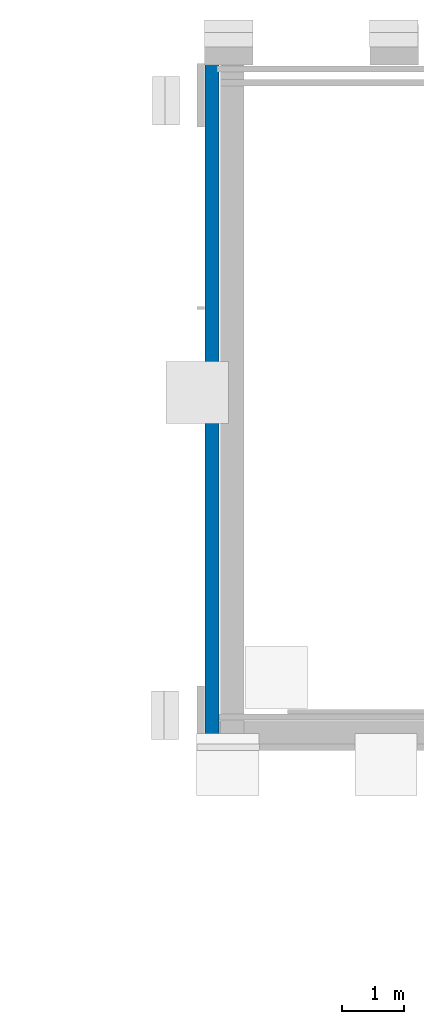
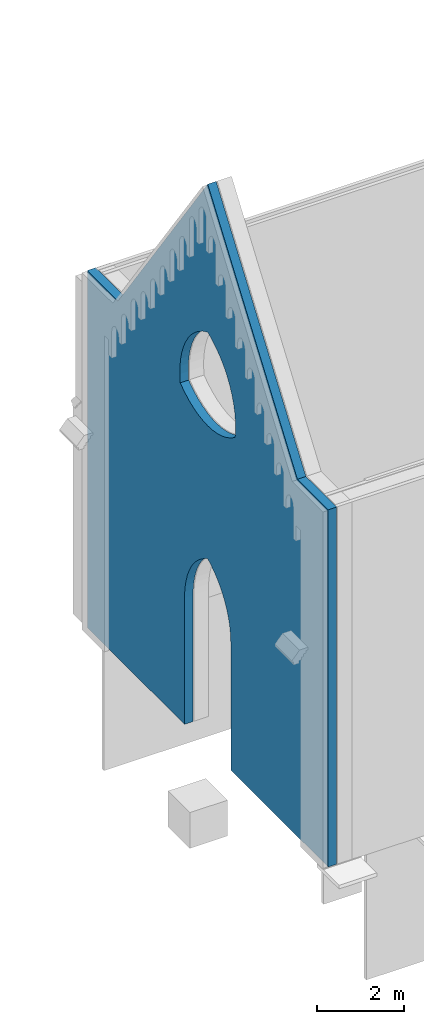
# Not in any storey, part 3 of 5: 1 wall.
"""IFC4 model written with IfcOpenShell, lengths in metres."""

from ifc_helpers import new_model, entity, si_unit, converted_unit, frame, origin_with_axes, origin_2d_with_axis, place, context, subcontext, project, polygons, element, save


model = new_model("IFC4")

# Units and contexts
model_context = context("Model", 3, precision=1e-05, world=origin_with_axes())
plan_context = context("Plan", 2, precision=1e-05, world=origin_2d_with_axis())
body_context = subcontext(model_context, "Body", "Model", "MODEL_VIEW")
ifc_project = project(units=[si_unit("LENGTHUNIT", "METRE"), converted_unit("PLANEANGLEUNIT", "degree", entity("IfcReal", 0.0174532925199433), si_unit("PLANEANGLEUNIT", "RADIAN"), dimensions=[0, 0, 0, 0, 0, 0, 0]), si_unit("AREAUNIT", "SQUARE_METRE"), si_unit("VOLUMEUNIT", "CUBIC_METRE")], contexts=[model_context, plan_context])

# Wall
wall_placement = place(None, frame((0.125, 0.0, 0.0), z_axis=(0.999999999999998, 4.37113882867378e-08, -4.37113882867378e-08), x_axis=(-4.37113882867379e-08, 0.999999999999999, 0.0)))
element("IfcWall", 1, at=wall_placement, Name="wall_north_face_2", PredefinedType="SOLIDWALL", context=body_context, shape_type="Tessellation", body=[
    polygons([(6.58132362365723, 1.9999741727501e-15, 0.0), (6.95278453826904, 1.83330985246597e-15, 0.0), (7.32424545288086, 1.66664521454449e-15, 0.0), (7.69570636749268, 1.49998068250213e-15, 0.0), (8.06716728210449, 1.33331615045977e-15, 0.0), (8.43862819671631, 1.16665161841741e-15, 0.0), (8.81009006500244, 9.9998698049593e-16, 0.0), (9.18155097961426, 8.33322448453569e-16, 0.0), (9.55301189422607, 6.66657916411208e-16, 0.0), (9.92447280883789, 4.99993331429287e-16, 0.0), (10.2959337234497, 3.33328825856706e-16, 0.0), (10.6673946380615, 1.66664280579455e-16, 0.0), (11.038857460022, 0.0, 0.0), (11.038857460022, 0.832405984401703, 0.0), (11.038857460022, 1.66481196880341, 0.0), (11.038857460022, 2.49721789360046, 0.0), (11.038857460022, 3.32962393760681, 0.0), (11.038857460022, 4.16202974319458, 0.0), (11.038857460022, 4.99443578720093, 0.0), (11.038857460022, 5.82684135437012, 0.0), (11.038857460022, 6.65924739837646, 0.0), (11.038857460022, 7.49165296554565, 0.0), (11.038857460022, 8.32405853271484, 0.0), (11.038857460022, 9.15646553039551, 0.0), (11.038857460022, 9.98887157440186, 0.0), (10.9215612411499, 9.98887157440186, 0.0), (10.8042650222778, 9.98887157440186, 0.0), (10.6869688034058, 9.98887157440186, 0.0), (10.5696725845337, 9.98887157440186, 0.0), (10.4523763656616, 9.98887157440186, 0.0), (10.3350801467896, 9.98887157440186, 0.0), (10.2177839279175, 9.98887157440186, 0.0), (10.1004867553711, 9.98887157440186, 0.0), (9.98319053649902, 9.98887157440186, 0.0), (9.86589431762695, 9.98887157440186, 0.0), (9.74859809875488, 9.98887157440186, 0.0), (9.63130187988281, 9.98887157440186, 0.0), (9.28879451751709, 10.468879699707, 0.0), (8.94628715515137, 10.9488887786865, 0.0), (8.60377979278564, 11.4288969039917, 0.0), (8.26127243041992, 11.9089050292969, 0.0), (7.9187650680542, 12.3889141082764, 0.0), (7.57625770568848, 12.8689222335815, 0.0), (7.23375082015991, 13.3489303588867, 0.0), (6.89124345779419, 13.8289394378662, 0.0), (6.54873609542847, 14.3089475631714, 0.0), (6.20622873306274, 14.7889556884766, 0.0), (5.86372137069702, 15.2689647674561, 0.0), (5.52121591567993, 15.7489767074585, 0.0), (5.17872047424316, 15.2689685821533, 0.0), (4.8362250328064, 14.7889604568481, 0.0), (4.49372911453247, 14.3089513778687, 0.0), (4.1512336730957, 13.8289432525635, 0.0), (3.80873799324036, 13.348934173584, 0.0), (3.46624255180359, 12.8689260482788, 0.0), (3.12374687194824, 12.3889179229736, 0.0), (2.7812511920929, 11.9089088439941, 0.0), (2.43875575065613, 11.428900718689, 0.0), (2.09626007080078, 10.9488925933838, 0.0), (1.75376451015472, 10.4688835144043, 0.0), (1.41126894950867, 9.98887157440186, 0.0), (1.29366314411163, 9.98887157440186, 0.0), (1.1760573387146, 9.98887157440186, 0.0), (1.05845153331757, 9.98887157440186, 0.0), (0.940845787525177, 9.98887157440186, 0.0), (0.823239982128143, 9.98887157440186, 0.0), (0.705634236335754, 9.98887157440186, 0.0), (0.588028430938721, 9.98887157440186, 0.0), (0.470422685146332, 9.98887157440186, 0.0), (0.352816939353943, 9.98887157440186, 0.0), (0.235211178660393, 9.98887157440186, 0.0), (0.117605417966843, 9.98887157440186, 0.0), (0.0, 9.98887157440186, 0.0), (0.0, 9.15646553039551, 0.0), (0.0, 8.32405853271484, 0.0), (0.0, 7.4916524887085, 0.0), (0.0, 6.65924644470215, 0.0), (0.0, 5.82683992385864, 0.0), (0.0, 4.99443387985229, 0.0), (0.0, 4.16202735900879, 0.0), (0.0, 3.32962155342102, 0.0), (0.0, 2.49721550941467, 0.0), (0.0, 1.66480934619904, 0.0), (0.0, 0.832403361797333, 0.0), (0.0, 4.99993553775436e-15, 0.0), (0.371877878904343, 4.99993553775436e-15, 0.0), (0.743755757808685, 4.99993553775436e-15, 0.0), (1.11563360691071, 4.99993553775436e-15, 0.0), (1.48751151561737, 4.99993553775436e-15, 0.0), (1.85938942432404, 4.99993553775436e-15, 0.0), (2.23126721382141, 4.99993553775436e-15, 0.0), (2.6031448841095, 4.99993553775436e-15, 0.0), (2.97502279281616, 4.99993553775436e-15, 0.0), (3.34690046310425, 4.99993553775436e-15, 0.0), (3.71877837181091, 4.99993553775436e-15, 0.0), (4.09065628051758, 4.99993553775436e-15, 0.0), (4.46253442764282, 4.99993553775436e-15, 0.0), (4.46253442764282, 0.294162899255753, 0.0), (4.46253442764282, 0.588325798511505, 0.0), (4.46253442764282, 0.88248872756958, 0.0), (4.46253442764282, 1.17665159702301, 0.0), (4.46253442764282, 1.47081458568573, 0.0), (4.46253442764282, 1.76497757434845, 0.0), (4.46253442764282, 2.05914044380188, 0.0), (4.46253442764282, 2.3533034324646, 0.0), (4.46253442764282, 2.64746642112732, 0.0), (4.46253442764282, 2.94162940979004, 0.0), (4.46253442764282, 3.23579239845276, 0.0), (4.46253442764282, 3.52995419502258, 0.0), (4.47059392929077, 3.71611428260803, 0.0), (4.49451732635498, 3.89695858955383, 0.0), (4.53392124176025, 4.07185649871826, 0.0), (4.58842182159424, 4.2401762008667, 0.0), (4.65763664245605, 4.40128755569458, 0.0), (4.74118232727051, 4.55455875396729, 0.0), (4.83867454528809, 4.69935894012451, 0.0), (4.94973087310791, 4.8350567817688, 0.0), (5.07396793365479, 4.96102142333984, 0.0), (5.21100234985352, 5.07662200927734, 0.0), (5.36045074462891, 5.18122720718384, 0.0), (5.52192878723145, 5.27420568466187, 0.0), (5.6834077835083, 5.18122673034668, 0.0), (5.83285617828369, 5.07662153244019, 0.0), (5.96989059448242, 4.96102094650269, 0.0), (6.0941276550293, 4.83505630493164, 0.0), (6.20518398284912, 4.69935846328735, 0.0), (6.3026762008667, 4.55455875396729, 0.0), (6.38622140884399, 4.40128755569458, 0.0), (6.45543575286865, 4.2401762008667, 0.0), (6.50993680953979, 4.07185649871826, 0.0), (6.54934024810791, 3.89695882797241, 0.0), (6.57326412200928, 3.71611452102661, 0.0), (6.58132362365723, 3.52995443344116, 0.0), (6.58132362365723, 3.23579168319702, 0.0), (6.58132362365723, 2.9416286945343, 0.0), (6.58132362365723, 2.64746570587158, 0.0), (6.58132362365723, 2.35330271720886, 0.0), (6.58132362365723, 2.05913972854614, 0.0), (6.58132362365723, 1.76497673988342, 0.0), (6.58132362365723, 1.47081387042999, 0.0), (6.58132362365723, 1.17665088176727, 0.0), (6.58132362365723, 0.882487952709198, 0.0), (6.58132362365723, 0.588325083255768, 0.0), (6.58132362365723, 0.294162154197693, 0.0), (4.26291561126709, 9.42789936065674, 0.0), (4.24446773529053, 9.66214275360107, 0.0), (4.25139474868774, 9.89193916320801, 0.0), (4.28281402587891, 10.1157560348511, 0.0), (4.33784103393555, 10.3320655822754, 0.0), (4.41559314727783, 10.5393352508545, 0.0), (4.51518583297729, 10.7360343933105, 0.0), (4.6357364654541, 10.9206352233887, 0.0), (4.7763614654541, 11.0916042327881, 0.0), (4.93617677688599, 11.2474136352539, 0.0), (5.11429882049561, 11.386531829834, 0.0), (5.30984449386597, 11.5074291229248, 0.0), (5.52192878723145, 11.6085729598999, 0.0), (5.7340145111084, 11.5074281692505, 0.0), (5.92956018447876, 11.3865308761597, 0.0), (6.10768270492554, 11.2474126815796, 0.0), (6.26749801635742, 11.0916032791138, 0.0), (6.40812253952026, 10.9206342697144, 0.0), (6.52867317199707, 10.7360334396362, 0.0), (6.62826633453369, 10.5393342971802, 0.0), (6.70601797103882, 10.3320646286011, 0.0), (6.76104545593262, 10.1157550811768, 0.0), (6.79246425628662, 9.89193820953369, 0.0), (6.79939126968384, 9.66214179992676, 0.0), (6.78094244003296, 9.42789840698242, 0.0), (6.58730554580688, 9.29479885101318, 0.0), (6.38483285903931, 9.18590068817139, 0.0), (6.17529153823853, 9.10120105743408, 0.0), (5.96044921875, 9.0407018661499, 0.0), (5.74207258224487, 9.00440216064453, 0.0), (5.52192878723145, 8.99230289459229, 0.0), (5.30178546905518, 9.00440406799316, 0.0), (5.08340883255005, 9.04070281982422, 0.0), (4.86856603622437, 9.1012020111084, 0.0), (4.65902519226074, 9.1859016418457, 0.0), (4.45655250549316, 9.2947998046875, 0.0), (6.58132362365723, 1.9999741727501e-15, 0.224999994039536), (6.95278453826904, 1.83330985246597e-15, 0.224999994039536), (7.32424545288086, 1.66664521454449e-15, 0.224999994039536), (7.69570636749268, 1.49998068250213e-15, 0.224999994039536), (8.06716728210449, 1.33331615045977e-15, 0.224999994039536), (8.43862819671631, 1.16665161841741e-15, 0.224999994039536), (8.81009006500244, 9.9998698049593e-16, 0.224999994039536), (9.18155097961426, 8.33322448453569e-16, 0.224999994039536), (9.55301189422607, 6.66657916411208e-16, 0.224999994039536), (9.92447280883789, 4.99993331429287e-16, 0.224999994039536), (10.2959337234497, 3.33328825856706e-16, 0.224999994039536), (10.6673946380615, 1.66664280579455e-16, 0.224999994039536), (11.038857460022, 0.0, 0.224999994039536), (11.038857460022, 0.832405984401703, 0.224999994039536), (11.038857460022, 1.66481196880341, 0.224999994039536), (11.038857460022, 2.49721789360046, 0.224999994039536), (11.038857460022, 3.32962393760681, 0.224999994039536), (11.038857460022, 4.16202974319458, 0.224999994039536), (11.038857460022, 4.99443578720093, 0.224999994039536), (11.038857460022, 5.82684135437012, 0.224999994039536), (11.038857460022, 6.65924739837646, 0.224999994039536), (11.038857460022, 7.49165296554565, 0.224999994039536), (11.038857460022, 8.32405853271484, 0.224999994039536), (11.038857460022, 9.15646553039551, 0.224999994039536), (11.038857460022, 9.98887157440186, 0.224999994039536), (10.9215612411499, 9.98887157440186, 0.224999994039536), (10.8042650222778, 9.98887157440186, 0.224999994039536), (10.6869688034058, 9.98887157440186, 0.224999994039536), (10.5696725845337, 9.98887157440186, 0.224999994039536), (10.4523763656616, 9.98887157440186, 0.224999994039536), (10.3350801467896, 9.98887157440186, 0.224999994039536), (10.2177839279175, 9.98887157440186, 0.224999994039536), (10.1004867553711, 9.98887157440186, 0.224999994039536), (9.98319053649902, 9.98887157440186, 0.224999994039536), (9.86589431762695, 9.98887157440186, 0.224999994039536), (9.74859809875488, 9.98887157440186, 0.224999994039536), (9.63130187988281, 9.98887157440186, 0.224999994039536), (9.28879451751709, 10.468879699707, 0.224999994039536), (8.94628715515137, 10.9488887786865, 0.224999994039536), (8.60377979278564, 11.4288969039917, 0.224999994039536), (8.26127243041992, 11.9089050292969, 0.224999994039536), (7.9187650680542, 12.3889141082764, 0.224999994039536), (7.57625770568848, 12.8689222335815, 0.224999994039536), (7.23375082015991, 13.3489303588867, 0.224999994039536), (6.89124345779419, 13.8289394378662, 0.224999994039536), (6.54873609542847, 14.3089475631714, 0.224999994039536), (6.20622873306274, 14.7889556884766, 0.224999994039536), (5.86372137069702, 15.2689647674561, 0.224999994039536), (5.52121591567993, 15.7489767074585, 0.224999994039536), (5.17872047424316, 15.2689685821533, 0.224999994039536), (4.8362250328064, 14.7889604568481, 0.224999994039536), (4.49372911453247, 14.3089513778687, 0.224999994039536), (4.1512336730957, 13.8289432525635, 0.224999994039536), (3.80873799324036, 13.348934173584, 0.224999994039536), (3.46624255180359, 12.8689260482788, 0.224999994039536), (3.12374687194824, 12.3889179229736, 0.224999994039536), (2.7812511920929, 11.9089088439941, 0.224999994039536), (2.43875575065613, 11.428900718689, 0.224999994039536), (2.09626007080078, 10.9488925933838, 0.224999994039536), (1.75376451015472, 10.4688835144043, 0.224999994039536), (1.41126894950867, 9.98887157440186, 0.224999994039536), (1.29366314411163, 9.98887157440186, 0.224999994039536), (1.1760573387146, 9.98887157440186, 0.224999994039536), (1.05845153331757, 9.98887157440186, 0.224999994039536), (0.940845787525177, 9.98887157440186, 0.224999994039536), (0.823239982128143, 9.98887157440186, 0.224999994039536), (0.705634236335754, 9.98887157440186, 0.224999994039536), (0.588028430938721, 9.98887157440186, 0.224999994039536), (0.470422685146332, 9.98887157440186, 0.224999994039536), (0.352816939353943, 9.98887157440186, 0.224999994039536), (0.235211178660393, 9.98887157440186, 0.224999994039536), (0.117605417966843, 9.98887157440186, 0.224999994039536), (0.0, 9.98887157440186, 0.224999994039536), (0.0, 9.15646553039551, 0.224999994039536), (0.0, 8.32405853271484, 0.224999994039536), (0.0, 7.4916524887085, 0.224999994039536), (0.0, 6.65924644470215, 0.224999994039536), (0.0, 5.82683992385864, 0.224999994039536), (0.0, 4.99443387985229, 0.224999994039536), (0.0, 4.16202735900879, 0.224999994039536), (0.0, 3.32962155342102, 0.224999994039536), (0.0, 2.49721550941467, 0.224999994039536), (0.0, 1.66480934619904, 0.224999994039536), (0.0, 0.832403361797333, 0.224999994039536), (0.0, 4.99993553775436e-15, 0.224999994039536), (0.371877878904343, 4.99993553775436e-15, 0.224999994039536), (0.743755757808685, 4.99993553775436e-15, 0.224999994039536), (1.11563360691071, 4.99993553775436e-15, 0.224999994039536), (1.48751151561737, 4.99993553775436e-15, 0.224999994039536), (1.85938942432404, 4.99993553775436e-15, 0.224999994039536), (2.23126721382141, 4.99993553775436e-15, 0.224999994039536), (2.6031448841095, 4.99993553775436e-15, 0.224999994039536), (2.97502279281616, 4.99993553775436e-15, 0.224999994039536), (3.34690046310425, 4.99993553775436e-15, 0.224999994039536), (3.71877837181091, 4.99993553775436e-15, 0.224999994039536), (4.09065628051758, 4.99993553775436e-15, 0.224999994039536), (4.46253442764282, 4.99993553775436e-15, 0.224999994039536), (4.46253442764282, 0.294162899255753, 0.224999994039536), (4.46253442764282, 0.588325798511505, 0.224999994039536), (4.46253442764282, 0.88248872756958, 0.224999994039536), (4.46253442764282, 1.17665159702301, 0.224999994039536), (4.46253442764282, 1.47081458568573, 0.224999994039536), (4.46253442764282, 1.76497757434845, 0.224999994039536), (4.46253442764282, 2.05914044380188, 0.224999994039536), (4.46253442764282, 2.3533034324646, 0.224999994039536), (4.46253442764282, 2.64746642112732, 0.224999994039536), (4.46253442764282, 2.94162940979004, 0.224999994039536), (4.46253442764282, 3.23579239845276, 0.224999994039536), (4.46253442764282, 3.52995419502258, 0.224999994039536), (4.47059392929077, 3.71611428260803, 0.224999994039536), (4.49451732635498, 3.89695858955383, 0.224999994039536), (4.53392124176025, 4.07185649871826, 0.224999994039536), (4.58842182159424, 4.2401762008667, 0.224999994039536), (4.65763664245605, 4.40128755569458, 0.224999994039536), (4.74118232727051, 4.55455875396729, 0.224999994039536), (4.83867454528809, 4.69935894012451, 0.224999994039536), (4.94973087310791, 4.8350567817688, 0.224999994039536), (5.07396793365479, 4.96102142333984, 0.224999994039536), (5.21100234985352, 5.07662200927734, 0.224999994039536), (5.36045074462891, 5.18122720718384, 0.224999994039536), (5.52192878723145, 5.27420568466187, 0.224999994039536), (5.6834077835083, 5.18122673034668, 0.224999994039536), (5.83285617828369, 5.07662153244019, 0.224999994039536), (5.96989059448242, 4.96102094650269, 0.224999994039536), (6.0941276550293, 4.83505630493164, 0.224999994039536), (6.20518398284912, 4.69935846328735, 0.224999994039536), (6.3026762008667, 4.55455875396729, 0.224999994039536), (6.38622140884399, 4.40128755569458, 0.224999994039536), (6.45543575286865, 4.2401762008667, 0.224999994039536), (6.50993680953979, 4.07185649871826, 0.224999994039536), (6.54934024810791, 3.89695882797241, 0.224999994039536), (6.57326412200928, 3.71611452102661, 0.224999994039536), (6.58132362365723, 3.52995443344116, 0.224999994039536), (6.58132362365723, 3.23579168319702, 0.224999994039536), (6.58132362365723, 2.9416286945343, 0.224999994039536), (6.58132362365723, 2.64746570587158, 0.224999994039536), (6.58132362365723, 2.35330271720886, 0.224999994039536), (6.58132362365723, 2.05913972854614, 0.224999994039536), (6.58132362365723, 1.76497673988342, 0.224999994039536), (6.58132362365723, 1.47081387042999, 0.224999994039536), (6.58132362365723, 1.17665088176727, 0.224999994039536), (6.58132362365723, 0.882487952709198, 0.224999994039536), (6.58132362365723, 0.588325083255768, 0.224999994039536), (6.58132362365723, 0.294162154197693, 0.224999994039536), (4.26291561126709, 9.42789936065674, 0.224999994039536), (4.24446773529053, 9.66214275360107, 0.224999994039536), (4.25139474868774, 9.89193916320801, 0.224999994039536), (4.28281402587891, 10.1157560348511, 0.224999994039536), (4.33784103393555, 10.3320655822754, 0.224999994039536), (4.41559314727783, 10.5393352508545, 0.224999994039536), (4.51518583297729, 10.7360343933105, 0.224999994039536), (4.6357364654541, 10.9206352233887, 0.224999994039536), (4.7763614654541, 11.0916042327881, 0.224999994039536), (4.93617677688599, 11.2474136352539, 0.224999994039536), (5.11429882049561, 11.386531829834, 0.224999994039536), (5.30984449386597, 11.5074291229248, 0.224999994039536), (5.52192878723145, 11.6085729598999, 0.224999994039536), (5.7340145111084, 11.5074281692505, 0.224999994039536), (5.92956018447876, 11.3865308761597, 0.224999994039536), (6.10768270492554, 11.2474126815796, 0.224999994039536), (6.26749801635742, 11.0916032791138, 0.224999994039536), (6.40812253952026, 10.9206342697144, 0.224999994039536), (6.52867317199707, 10.7360334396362, 0.224999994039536), (6.62826633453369, 10.5393342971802, 0.224999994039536), (6.70601797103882, 10.3320646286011, 0.224999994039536), (6.76104545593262, 10.1157550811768, 0.224999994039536), (6.79246425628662, 9.89193820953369, 0.224999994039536), (6.79939126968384, 9.66214179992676, 0.224999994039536), (6.78094244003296, 9.42789840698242, 0.224999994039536), (6.58730554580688, 9.29479885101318, 0.224999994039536), (6.38483285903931, 9.18590068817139, 0.224999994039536), (6.17529153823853, 9.10120105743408, 0.224999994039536), (5.96044921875, 9.0407018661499, 0.224999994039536), (5.74207258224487, 9.00440216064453, 0.224999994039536), (5.52192878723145, 8.99230289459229, 0.224999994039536), (5.30178546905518, 9.00440406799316, 0.224999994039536), (5.08340883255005, 9.04070281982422, 0.224999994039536), (4.86856603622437, 9.1012020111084, 0.224999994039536), (4.65902519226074, 9.1859016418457, 0.224999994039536), (4.45655250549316, 9.2947998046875, 0.224999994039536)], [[[48, 50, 49]], [[48, 51, 50]], [[47, 51, 48]], [[47, 52, 51]], [[46, 52, 47]], [[46, 53, 52]], [[45, 53, 46]], [[54, 53, 157]], [[37, 169, 38]], [[44, 159, 158]], [[157, 45, 44]], [[43, 159, 44]], [[157, 44, 158]], [[42, 160, 43]], [[104, 92, 91]], [[145, 76, 61]], [[156, 155, 54]], [[42, 161, 160]], [[20, 126, 21]], [[39, 165, 40]], [[146, 60, 147]], [[145, 60, 146]], [[64, 74, 65]], [[154, 153, 56]], [[155, 154, 55]], [[59, 147, 60]], [[118, 179, 119]], [[172, 121, 173]], [[153, 152, 56]], [[78, 114, 79]], [[40, 165, 164]], [[152, 151, 57]], [[41, 163, 162]], [[77, 145, 180]], [[151, 150, 57]], [[7, 16, 15]], [[150, 149, 58]], [[39, 167, 166]], [[80, 110, 81]], [[62, 75, 63]], [[41, 162, 42]], [[149, 148, 59]], [[148, 147, 59]], [[91, 82, 105]], [[24, 26, 25]], [[24, 27, 26]], [[24, 28, 27]], [[24, 29, 28]], [[24, 30, 29]], [[24, 31, 30]], [[24, 32, 31]], [[24, 33, 32]], [[24, 34, 33]], [[24, 35, 34]], [[36, 35, 23]], [[37, 36, 23]], [[103, 93, 92]], [[61, 75, 62]], [[76, 75, 61]], [[74, 63, 75]], [[66, 65, 74]], [[67, 66, 74]], [[68, 67, 74]], [[69, 68, 74]], [[70, 69, 74]], [[71, 70, 74]], [[72, 71, 74]], [[73, 72, 74]], [[61, 60, 145]], [[56, 152, 57]], [[138, 6, 139]], [[64, 63, 74]], [[169, 37, 22]], [[179, 118, 180]], [[170, 169, 21]], [[38, 169, 168]], [[21, 126, 125]], [[173, 121, 174]], [[171, 123, 172]], [[22, 37, 23]], [[18, 132, 131]], [[122, 172, 123]], [[121, 172, 122]], [[38, 167, 39]], [[43, 160, 159]], [[177, 121, 178]], [[40, 164, 41]], [[55, 154, 56]], [[176, 121, 177]], [[175, 121, 176]], [[157, 53, 45]], [[178, 119, 179]], [[170, 124, 171]], [[119, 178, 120]], [[139, 5, 140]], [[174, 121, 175]], [[99, 96, 95]], [[123, 171, 124]], [[101, 93, 102]], [[38, 168, 167]], [[58, 149, 59]], [[102, 93, 103]], [[107, 81, 108]], [[20, 127, 126]], [[21, 169, 22]], [[41, 164, 163]], [[135, 17, 16]], [[117, 116, 77]], [[101, 94, 93]], [[116, 115, 78]], [[76, 145, 77]], [[19, 130, 129]], [[115, 114, 78]], [[57, 150, 58]], [[114, 113, 79]], [[18, 130, 19]], [[113, 112, 79]], [[130, 18, 131]], [[91, 105, 104]], [[111, 80, 112]], [[103, 92, 104]], [[17, 132, 18]], [[111, 110, 80]], [[17, 133, 132]], [[109, 81, 110]], [[17, 134, 133]], [[108, 81, 109]], [[134, 17, 135]], [[82, 81, 107]], [[79, 112, 80]], [[125, 170, 21]], [[106, 82, 107]], [[16, 136, 135]], [[105, 82, 106]], [[16, 137, 136]], [[137, 16, 7]], [[83, 82, 91]], [[117, 180, 118]], [[138, 137, 7]], [[90, 83, 91]], [[23, 35, 24]], [[89, 83, 90]], [[19, 128, 20]], [[39, 166, 165]], [[84, 83, 88]], [[156, 54, 157]], [[124, 170, 125]], [[87, 84, 88]], [[100, 95, 94]], [[140, 5, 141]], [[19, 129, 128]], [[10, 15, 14]], [[85, 84, 86]], [[88, 83, 89]], [[11, 14, 12]], [[86, 84, 87]], [[3, 2, 143]], [[2, 1, 144]], [[4, 3, 142]], [[98, 96, 99]], [[143, 2, 144]], [[20, 128, 127]], [[99, 95, 100]], [[142, 3, 143]], [[54, 155, 55]], [[100, 94, 101]], [[141, 4, 142]], [[77, 180, 117]], [[42, 162, 161]], [[96, 98, 97]], [[6, 5, 139]], [[7, 6, 138]], [[7, 15, 8]], [[8, 15, 9]], [[9, 15, 10]], [[77, 116, 78]], [[10, 14, 11]], [[120, 178, 121]], [[12, 14, 13]], [[5, 4, 141]], [[228, 229, 230]], [[228, 230, 231]], [[227, 228, 231]], [[227, 231, 232]], [[226, 227, 232]], [[226, 232, 233]], [[225, 226, 233]], [[234, 337, 233]], [[217, 218, 349]], [[224, 338, 339]], [[337, 224, 225]], [[223, 224, 339]], [[337, 338, 224]], [[222, 223, 340]], [[284, 271, 272]], [[325, 241, 256]], [[336, 234, 335]], [[222, 340, 341]], [[200, 201, 306]], [[219, 220, 345]], [[326, 327, 240]], [[325, 326, 240]], [[244, 245, 254]], [[334, 236, 333]], [[335, 235, 334]], [[239, 240, 327]], [[298, 299, 359]], [[352, 353, 301]], [[333, 236, 332]], [[258, 259, 294]], [[220, 344, 345]], [[332, 237, 331]], [[221, 342, 343]], [[257, 360, 325]], [[331, 237, 330]], [[187, 195, 196]], [[330, 238, 329]], [[219, 346, 347]], [[260, 261, 290]], [[242, 243, 255]], [[221, 222, 342]], [[329, 239, 328]], [[328, 239, 327]], [[271, 285, 262]], [[204, 205, 206]], [[204, 206, 207]], [[204, 207, 208]], [[204, 208, 209]], [[204, 209, 210]], [[204, 210, 211]], [[204, 211, 212]], [[204, 212, 213]], [[204, 213, 214]], [[204, 214, 215]], [[216, 203, 215]], [[217, 203, 216]], [[283, 272, 273]], [[241, 242, 255]], [[256, 241, 255]], [[254, 255, 243]], [[246, 254, 245]], [[247, 254, 246]], [[248, 254, 247]], [[249, 254, 248]], [[250, 254, 249]], [[251, 254, 250]], [[252, 254, 251]], [[253, 254, 252]], [[241, 325, 240]], [[236, 237, 332]], [[318, 319, 186]], [[244, 254, 243]], [[349, 202, 217]], [[359, 360, 298]], [[350, 201, 349]], [[218, 348, 349]], [[201, 305, 306]], [[353, 354, 301]], [[351, 352, 303]], [[202, 203, 217]], [[198, 311, 312]], [[302, 303, 352]], [[301, 302, 352]], [[218, 219, 347]], [[223, 339, 340]], [[357, 358, 301]], [[220, 221, 344]], [[235, 236, 334]], [[356, 357, 301]], [[355, 356, 301]], [[337, 225, 233]], [[358, 359, 299]], [[350, 351, 304]], [[299, 300, 358]], [[319, 320, 185]], [[354, 355, 301]], [[279, 275, 276]], [[303, 304, 351]], [[281, 282, 273]], [[218, 347, 348]], [[238, 239, 329]], [[282, 283, 273]], [[287, 288, 261]], [[200, 306, 307]], [[201, 202, 349]], [[221, 343, 344]], [[315, 196, 197]], [[297, 257, 296]], [[281, 273, 274]], [[296, 258, 295]], [[256, 257, 325]], [[199, 309, 310]], [[295, 258, 294]], [[237, 238, 330]], [[294, 259, 293]], [[198, 199, 310]], [[293, 259, 292]], [[310, 311, 198]], [[271, 284, 285]], [[291, 292, 260]], [[283, 284, 272]], [[197, 198, 312]], [[291, 260, 290]], [[197, 312, 313]], [[289, 290, 261]], [[197, 313, 314]], [[288, 289, 261]], [[314, 315, 197]], [[262, 287, 261]], [[259, 260, 292]], [[305, 201, 350]], [[286, 287, 262]], [[196, 315, 316]], [[285, 286, 262]], [[196, 316, 317]], [[317, 187, 196]], [[263, 271, 262]], [[297, 298, 360]], [[318, 187, 317]], [[270, 271, 263]], [[203, 204, 215]], [[269, 270, 263]], [[199, 200, 308]], [[219, 345, 346]], [[264, 268, 263]], [[336, 337, 234]], [[304, 305, 350]], [[267, 268, 264]], [[280, 274, 275]], [[320, 321, 185]], [[199, 308, 309]], [[190, 194, 195]], [[265, 266, 264]], [[268, 269, 263]], [[191, 192, 194]], [[266, 267, 264]], [[183, 323, 182]], [[182, 324, 181]], [[184, 322, 183]], [[278, 279, 276]], [[323, 324, 182]], [[200, 307, 308]], [[279, 280, 275]], [[322, 323, 183]], [[234, 235, 335]], [[280, 281, 274]], [[321, 322, 184]], [[257, 297, 360]], [[222, 341, 342]], [[276, 277, 278]], [[186, 319, 185]], [[187, 318, 186]], [[187, 188, 195]], [[188, 189, 195]], [[189, 190, 195]], [[257, 258, 296]], [[190, 191, 194]], [[300, 301, 358]], [[192, 193, 194]], [[185, 321, 184]], [[101, 102, 282, 281]], [[50, 51, 231, 230]], [[153, 154, 334, 333]], [[102, 103, 283, 282]], [[51, 52, 232, 231]], [[154, 155, 335, 334]], [[103, 104, 284, 283]], [[52, 53, 233, 232]], [[155, 156, 336, 335]], [[1, 2, 182, 181]], [[104, 105, 285, 284]], [[53, 54, 234, 233]], [[156, 157, 337, 336]], [[2, 3, 183, 182]], [[105, 106, 286, 285]], [[54, 55, 235, 234]], [[157, 158, 338, 337]], [[3, 4, 184, 183]], [[106, 107, 287, 286]], [[55, 56, 236, 235]], [[159, 338, 158]], [[4, 5, 185, 184]], [[107, 108, 288, 287]], [[56, 57, 237, 236]], [[160, 339, 159]], [[5, 6, 186, 185]], [[108, 109, 289, 288]], [[57, 58, 238, 237]], [[161, 340, 160]], [[6, 7, 187, 186]], [[109, 110, 290, 289]], [[58, 59, 239, 238]], [[161, 162, 342, 341]], [[7, 8, 188, 187]], [[110, 111, 291, 290]], [[59, 60, 240, 239]], [[162, 163, 343, 342]], [[8, 9, 189, 188]], [[111, 112, 292, 291]], [[60, 61, 241, 240]], [[163, 164, 344, 343]], [[9, 10, 190, 189]], [[112, 113, 293, 292]], [[61, 62, 242, 241]], [[165, 344, 164]], [[10, 11, 191, 190]], [[113, 114, 294, 293]], [[62, 63, 243, 242]], [[165, 166, 346, 345]], [[11, 12, 192, 191]], [[114, 115, 295, 294]], [[63, 64, 244, 243]], [[166, 167, 347, 346]], [[12, 13, 193, 192]], [[115, 116, 296, 295]], [[64, 65, 245, 244]], [[167, 168, 348, 347]], [[13, 14, 194, 193]], [[116, 117, 297, 296]], [[65, 66, 246, 245]], [[168, 169, 349, 348]], [[14, 15, 195, 194]], [[117, 118, 298, 297]], [[66, 67, 247, 246]], [[169, 170, 350, 349]], [[15, 16, 196, 195]], [[118, 119, 299, 298]], [[67, 68, 248, 247]], [[170, 171, 351, 350]], [[16, 17, 197, 196]], [[119, 120, 300, 299]], [[68, 69, 249, 248]], [[171, 172, 352, 351]], [[17, 18, 198, 197]], [[120, 121, 301, 300]], [[69, 70, 250, 249]], [[172, 173, 353, 352]], [[18, 19, 199, 198]], [[121, 122, 302, 301]], [[70, 71, 251, 250]], [[173, 174, 354, 353]], [[19, 20, 200, 199]], [[122, 123, 303, 302]], [[71, 72, 252, 251]], [[174, 175, 355, 354]], [[20, 21, 201, 200]], [[123, 124, 304, 303]], [[72, 73, 253, 252]], [[176, 355, 175]], [[21, 22, 202, 201]], [[124, 125, 305, 304]], [[73, 74, 254, 253]], [[176, 177, 357, 356]], [[22, 23, 203, 202]], [[125, 126, 306, 305]], [[74, 75, 255, 254]], [[178, 357, 177]], [[23, 24, 204, 203]], [[126, 127, 307, 306]], [[75, 76, 256, 255]], [[178, 179, 359, 358]], [[24, 25, 205, 204]], [[127, 128, 308, 307]], [[76, 77, 257, 256]], [[179, 180, 360, 359]], [[25, 26, 206, 205]], [[128, 129, 309, 308]], [[77, 78, 258, 257]], [[145, 360, 180]], [[26, 27, 207, 206]], [[129, 130, 310, 309]], [[78, 79, 259, 258]], [[27, 28, 208, 207]], [[130, 131, 311, 310]], [[79, 80, 260, 259]], [[28, 29, 209, 208]], [[131, 132, 312, 311]], [[80, 81, 261, 260]], [[29, 30, 210, 209]], [[132, 133, 313, 312]], [[81, 82, 262, 261]], [[30, 31, 211, 210]], [[133, 134, 314, 313]], [[82, 83, 263, 262]], [[31, 32, 212, 211]], [[134, 135, 315, 314]], [[83, 84, 264, 263]], [[32, 33, 213, 212]], [[135, 136, 316, 315]], [[84, 85, 265, 264]], [[33, 34, 214, 213]], [[136, 137, 317, 316]], [[85, 86, 266, 265]], [[34, 35, 215, 214]], [[137, 138, 318, 317]], [[86, 87, 267, 266]], [[35, 36, 216, 215]], [[138, 139, 319, 318]], [[87, 88, 268, 267]], [[36, 37, 217, 216]], [[139, 140, 320, 319]], [[88, 89, 269, 268]], [[37, 38, 218, 217]], [[140, 141, 321, 320]], [[89, 90, 270, 269]], [[39, 218, 38]], [[141, 142, 322, 321]], [[90, 91, 271, 270]], [[39, 40, 220, 219]], [[142, 143, 323, 322]], [[91, 92, 272, 271]], [[40, 41, 221, 220]], [[143, 144, 324, 323]], [[92, 93, 273, 272]], [[41, 42, 222, 221]], [[144, 1, 181, 324]], [[93, 94, 274, 273]], [[42, 43, 223, 222]], [[145, 146, 326, 325]], [[94, 95, 275, 274]], [[43, 44, 224, 223]], [[146, 147, 327, 326]], [[95, 96, 276, 275]], [[45, 224, 44]], [[147, 148, 328, 327]], [[96, 97, 277, 276]], [[46, 225, 45]], [[148, 149, 329, 328]], [[97, 98, 278, 277]], [[46, 47, 227, 226]], [[149, 150, 330, 329]], [[98, 99, 279, 278]], [[47, 48, 228, 227]], [[150, 151, 331, 330]], [[99, 100, 280, 279]], [[48, 49, 229, 228]], [[151, 152, 332, 331]], [[100, 101, 281, 280]], [[49, 50, 230, 229]], [[152, 153, 333, 332]], [[159, 339, 338]], [[160, 340, 339]], [[161, 341, 340]], [[165, 345, 344]], [[176, 356, 355]], [[178, 358, 357]], [[145, 325, 360]], [[39, 219, 218]], [[45, 225, 224]], [[46, 226, 225]]], closed=True),
])

save(model, "model.ifc")
